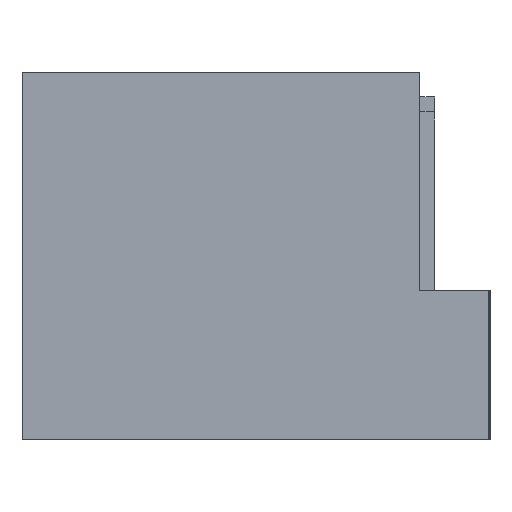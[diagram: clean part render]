
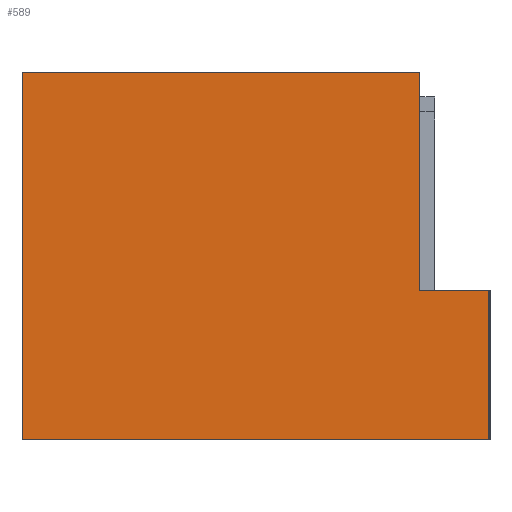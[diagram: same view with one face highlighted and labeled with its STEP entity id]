
A CAD part, left-side view. The second image highlights one B-rep face of the part: STEP entity #589.
In plain terms, the highlighted planar face has unit normal (-1, 0, 0).
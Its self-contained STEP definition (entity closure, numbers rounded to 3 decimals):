
#257 = EDGE_CURVE ( 'NONE', #383, #258, #1772, .T. ) ;
#258 = VERTEX_POINT ( 'NONE', #1768 ) ;
#277 = VERTEX_POINT ( 'NONE', #1874 ) ;
#278 = ORIENTED_EDGE ( 'NONE', *, *, #279, .T. ) ;
#279 = EDGE_CURVE ( 'NONE', #277, #281, #1873, .T. ) ;
#281 = VERTEX_POINT ( 'NONE', #1865 ) ;
#292 = EDGE_LOOP ( 'NONE', ( #590, #278, #458, #538, #539, #487 ) ) ;
#383 = VERTEX_POINT ( 'NONE', #2042 ) ;
#458 = ORIENTED_EDGE ( 'NONE', *, *, #459, .T. ) ;
#459 = EDGE_CURVE ( 'NONE', #281, #258, #2259, .T. ) ;
#486 = VERTEX_POINT ( 'NONE', #2149 ) ;
#487 = ORIENTED_EDGE ( 'NONE', *, *, #488, .T. ) ;
#488 = EDGE_CURVE ( 'NONE', #486, #592, #2148, .T. ) ;
#538 = ORIENTED_EDGE ( 'NONE', *, *, #257, .F. ) ;
#539 = ORIENTED_EDGE ( 'NONE', *, *, #540, .F. ) ;
#540 = EDGE_CURVE ( 'NONE', #486, #383, #2469, .T. ) ;
#589 = ADVANCED_FACE ( 'NONE', ( #2521 ), #2520, .F. ) ;
#590 = ORIENTED_EDGE ( 'NONE', *, *, #591, .T. ) ;
#591 = EDGE_CURVE ( 'NONE', #592, #277, #2515, .T. ) ;
#592 = VERTEX_POINT ( 'NONE', #2511 ) ;
#1768 = CARTESIAN_POINT ( 'NONE',  ( -37.4, -20., 15. ) ) ;
#1769 = DIRECTION ( 'NONE',  ( 0., 0., -1. ) ) ;
#1770 = VECTOR ( 'NONE', #1769, 1000. ) ;
#1771 = CARTESIAN_POINT ( 'NONE',  ( -37.4, -20., 37. ) ) ;
#1772 = LINE ( 'NONE', #1771, #1770 ) ;
#1865 = CARTESIAN_POINT ( 'NONE',  ( -37.4, -26.876, 15. ) ) ;
#1870 = DIRECTION ( 'NONE',  ( 0., 0., 1. ) ) ;
#1871 = VECTOR ( 'NONE', #1870, 1000. ) ;
#1872 = CARTESIAN_POINT ( 'NONE',  ( -37.4, -26.876, 37. ) ) ;
#1873 = LINE ( 'NONE', #1872, #1871 ) ;
#1874 = CARTESIAN_POINT ( 'NONE',  ( -37.4, -26.876, 0. ) ) ;
#2042 = CARTESIAN_POINT ( 'NONE',  ( -37.4, -20., 37. ) ) ;
#2145 = DIRECTION ( 'NONE',  ( 0., 0., -1. ) ) ;
#2146 = VECTOR ( 'NONE', #2145, 1000. ) ;
#2147 = CARTESIAN_POINT ( 'NONE',  ( -37.4, 20., 37. ) ) ;
#2148 = LINE ( 'NONE', #2147, #2146 ) ;
#2149 = CARTESIAN_POINT ( 'NONE',  ( -37.4, 20., 37. ) ) ;
#2258 = CARTESIAN_POINT ( 'NONE',  ( -37.4, -27.5, 15. ) ) ;
#2259 = LINE ( 'NONE', #2258, #2281 ) ;
#2280 = DIRECTION ( 'NONE',  ( 0., 1., 0. ) ) ;
#2281 = VECTOR ( 'NONE', #2280, 1000. ) ;
#2466 = DIRECTION ( 'NONE',  ( 0., -1., 0. ) ) ;
#2467 = VECTOR ( 'NONE', #2466, 1000. ) ;
#2468 = CARTESIAN_POINT ( 'NONE',  ( -37.4, 20., 37. ) ) ;
#2469 = LINE ( 'NONE', #2468, #2467 ) ;
#2511 = CARTESIAN_POINT ( 'NONE',  ( -37.4, 20., 0. ) ) ;
#2512 = DIRECTION ( 'NONE',  ( 0., -1., 0. ) ) ;
#2513 = VECTOR ( 'NONE', #2512, 1000. ) ;
#2514 = CARTESIAN_POINT ( 'NONE',  ( -37.4, 20., 0. ) ) ;
#2515 = LINE ( 'NONE', #2514, #2513 ) ;
#2516 = DIRECTION ( 'NONE',  ( 0., 1., 0. ) ) ;
#2517 = DIRECTION ( 'NONE',  ( 1., 0., 0. ) ) ;
#2518 = CARTESIAN_POINT ( 'NONE',  ( -37.4, 20., 37. ) ) ;
#2519 = AXIS2_PLACEMENT_3D ( 'NONE', #2518, #2517, #2516 ) ;
#2520 = PLANE ( 'NONE',  #2519 ) ;
#2521 = FACE_OUTER_BOUND ( 'NONE', #292, .T. ) ;
